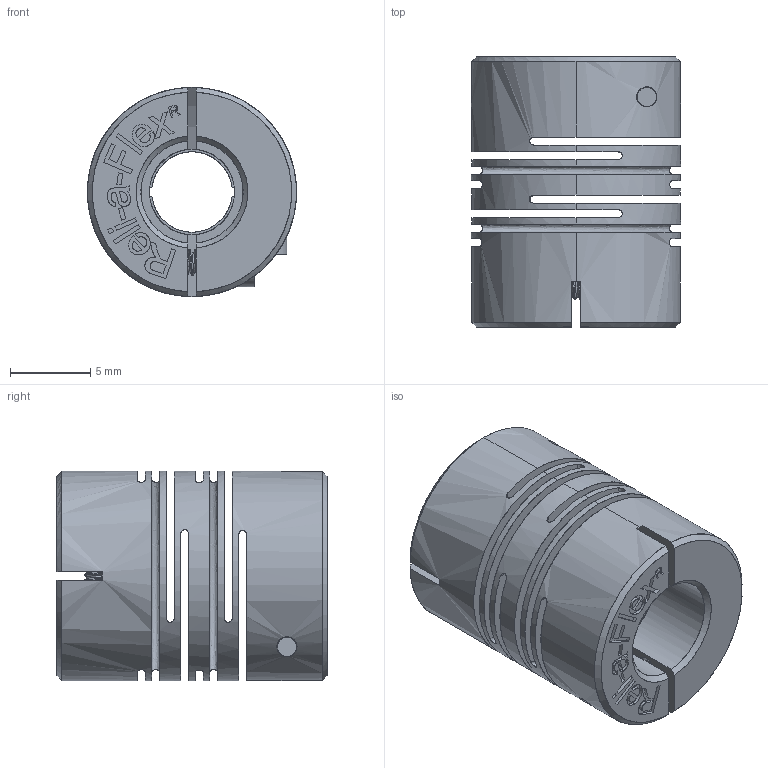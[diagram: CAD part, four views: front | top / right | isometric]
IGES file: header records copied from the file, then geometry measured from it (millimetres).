
Start section: Comment
Global section: file name: RCSA13C-0.250-5.igs; native system:  By UGS Corp.; preprocessor: XPlus GENERIC/IGES 3.0; author: Author; organization: Title; date: 20070323.104149; units: inch
Bounding box: 13 x 16.8 x 13 mm (x, y, z)
Surface area: 2781.4 mm2 (no closed solid volume)
Topology: 0 solids, 0 shells, 334 faces, 2322 edges, 2318 vertices
Faces by surface type: bspline 334
